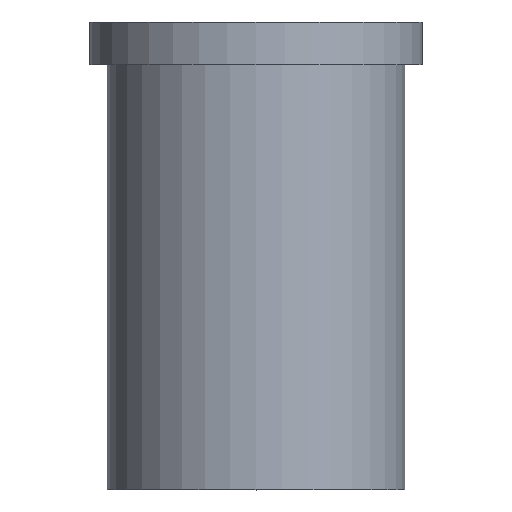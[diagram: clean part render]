
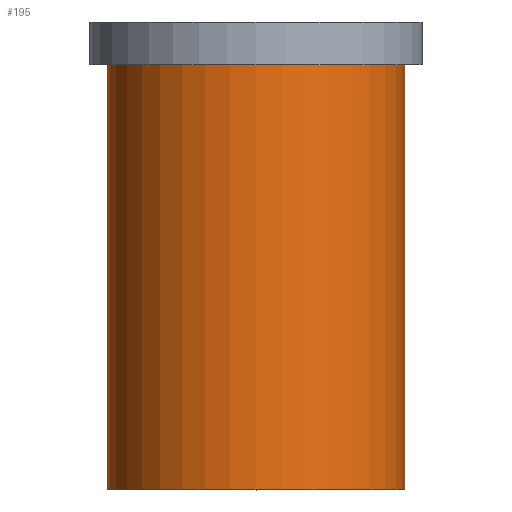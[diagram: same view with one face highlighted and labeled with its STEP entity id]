
A CAD part, top view. The second image highlights one B-rep face of the part: STEP entity #195.
In plain terms, the highlighted cylindrical face has radius 21 mm (diameter 42 mm), a full revolution.
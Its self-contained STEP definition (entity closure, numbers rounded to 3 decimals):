
#32=ORIENTED_EDGE('',*,*,#50,.T.);
#33=ORIENTED_EDGE('',*,*,#49,.F.);
#49=EDGE_CURVE('',#59,#59,#69,.T.);
#50=EDGE_CURVE('',#60,#60,#70,.T.);
#59=VERTEX_POINT('',#280);
#60=VERTEX_POINT('',#283);
#69=CIRCLE('',#213,21.);
#70=CIRCLE('',#215,21.);
#82=EDGE_LOOP('',(#32));
#83=EDGE_LOOP('',(#33));
#102=FACE_BOUND('',#82,.T.);
#103=FACE_BOUND('',#83,.T.);
#117=CYLINDRICAL_SURFACE('',#214,21.);
#195=ADVANCED_FACE('',(#102,#103),#117,.T.);
#213=AXIS2_PLACEMENT_3D('',#279,#241,#242);
#214=AXIS2_PLACEMENT_3D('',#281,#243,#244);
#215=AXIS2_PLACEMENT_3D('',#282,#245,#246);
#241=DIRECTION('',(0.,-1.,0.));
#242=DIRECTION('',(0.,0.,-1.));
#243=DIRECTION('',(0.,-1.,0.));
#244=DIRECTION('',(0.,0.,-1.));
#245=DIRECTION('',(0.,-1.,0.));
#246=DIRECTION('',(0.,0.,-1.));
#279=CARTESIAN_POINT('',(0.,0.,0.));
#280=CARTESIAN_POINT('',(0.,0.,-21.));
#281=CARTESIAN_POINT('',(0.,0.,0.));
#282=CARTESIAN_POINT('',(0.,60.,0.));
#283=CARTESIAN_POINT('',(0.,60.,-21.));
